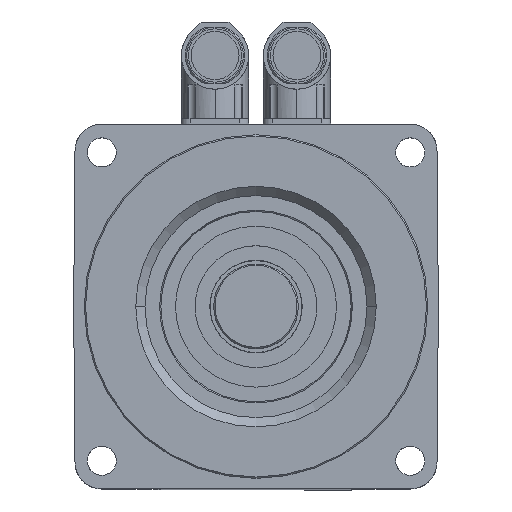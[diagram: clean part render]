
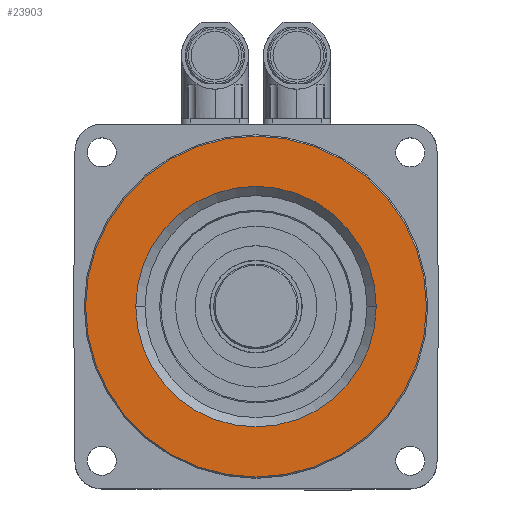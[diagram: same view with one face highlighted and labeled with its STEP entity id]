
A CAD part, top view. The second image highlights one B-rep face of the part: STEP entity #23903.
In plain terms, the highlighted planar face has unit normal (0, 0, 1).
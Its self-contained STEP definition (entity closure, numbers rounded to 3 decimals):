
#1279 = DIRECTION ( 'NONE',  ( 1., 0., 0. ) ) ;
#1280 = DIRECTION ( 'NONE',  ( 0., 0., 1. ) ) ;
#1281 = CARTESIAN_POINT ( 'NONE',  ( 0., 0., 2.46 ) ) ;
#1282 = AXIS2_PLACEMENT_3D ( 'NONE', #1281, #1280, #1279 ) ;
#1284 = CIRCLE ( 'NONE', #1282, 64.5 ) ;
#1664 = DIRECTION ( 'NONE',  ( 1., 0., 0. ) ) ;
#1665 = DIRECTION ( 'NONE',  ( 0., 0., 1. ) ) ;
#1666 = CARTESIAN_POINT ( 'NONE',  ( 0., 64.5, 2.46 ) ) ;
#1667 = AXIS2_PLACEMENT_3D ( 'NONE', #1666, #1665, #1664 ) ;
#1668 = PLANE ( 'NONE',  #1667 ) ;
#1683 = FACE_BOUND ( 'NONE', #24137, .T. ) ;
#1689 = FACE_OUTER_BOUND ( 'NONE', #23828, .T. ) ;
#1887 = DIRECTION ( 'NONE',  ( -1., 0., 0. ) ) ;
#1889 = DIRECTION ( 'NONE',  ( 0., 0., -1. ) ) ;
#1890 = CARTESIAN_POINT ( 'NONE',  ( 0., 0., 2.46 ) ) ;
#1891 = AXIS2_PLACEMENT_3D ( 'NONE', #1890, #1889, #1887 ) ;
#1892 = CIRCLE ( 'NONE', #1891, 45.5 ) ;
#3125 = EDGE_CURVE ( 'NONE', #3140, #3129, #19767, .T. ) ;
#3129 = VERTEX_POINT ( 'NONE', #19759 ) ;
#3140 = VERTEX_POINT ( 'NONE', #8277 ) ;
#8020 = EDGE_CURVE ( 'NONE', #8021, #8023, #21677, .T. ) ;
#8021 = VERTEX_POINT ( 'NONE', #21668 ) ;
#8023 = VERTEX_POINT ( 'NONE', #21665 ) ;
#8277 = CARTESIAN_POINT ( 'NONE',  ( 45.5, 0., 2.46 ) ) ;
#19759 = CARTESIAN_POINT ( 'NONE',  ( -45.5, 0., 2.46 ) ) ;
#19763 = DIRECTION ( 'NONE',  ( -1., 0., 0. ) ) ;
#19764 = DIRECTION ( 'NONE',  ( 0., 0., -1. ) ) ;
#19765 = CARTESIAN_POINT ( 'NONE',  ( 0., 0., 2.46 ) ) ;
#19766 = AXIS2_PLACEMENT_3D ( 'NONE', #19765, #19764, #19763 ) ;
#19767 = CIRCLE ( 'NONE', #19766, 45.5 ) ;
#21665 = CARTESIAN_POINT ( 'NONE',  ( -64.5, 0., 2.46 ) ) ;
#21668 = CARTESIAN_POINT ( 'NONE',  ( 64.5, 0., 2.46 ) ) ;
#21670 = DIRECTION ( 'NONE',  ( 1., 0., 0. ) ) ;
#21671 = DIRECTION ( 'NONE',  ( 0., 0., 1. ) ) ;
#21672 = CARTESIAN_POINT ( 'NONE',  ( 0., 0., 2.46 ) ) ;
#21674 = AXIS2_PLACEMENT_3D ( 'NONE', #21672, #21671, #21670 ) ;
#21677 = CIRCLE ( 'NONE', #21674, 64.5 ) ;
#23828 = EDGE_LOOP ( 'NONE', ( #23830, #24136 ) ) ;
#23830 = ORIENTED_EDGE ( 'NONE', *, *, #23831, .T. ) ;
#23831 = EDGE_CURVE ( 'NONE', #8023, #8021, #1284, .T. ) ;
#23903 = ADVANCED_FACE ( 'NONE', ( #1689, #1683 ), #1668, .T. ) ;
#24136 = ORIENTED_EDGE ( 'NONE', *, *, #8020, .T. ) ;
#24137 = EDGE_LOOP ( 'NONE', ( #24139, #24140 ) ) ;
#24139 = ORIENTED_EDGE ( 'NONE', *, *, #3125, .T. ) ;
#24140 = ORIENTED_EDGE ( 'NONE', *, *, #24141, .T. ) ;
#24141 = EDGE_CURVE ( 'NONE', #3129, #3140, #1892, .T. ) ;
